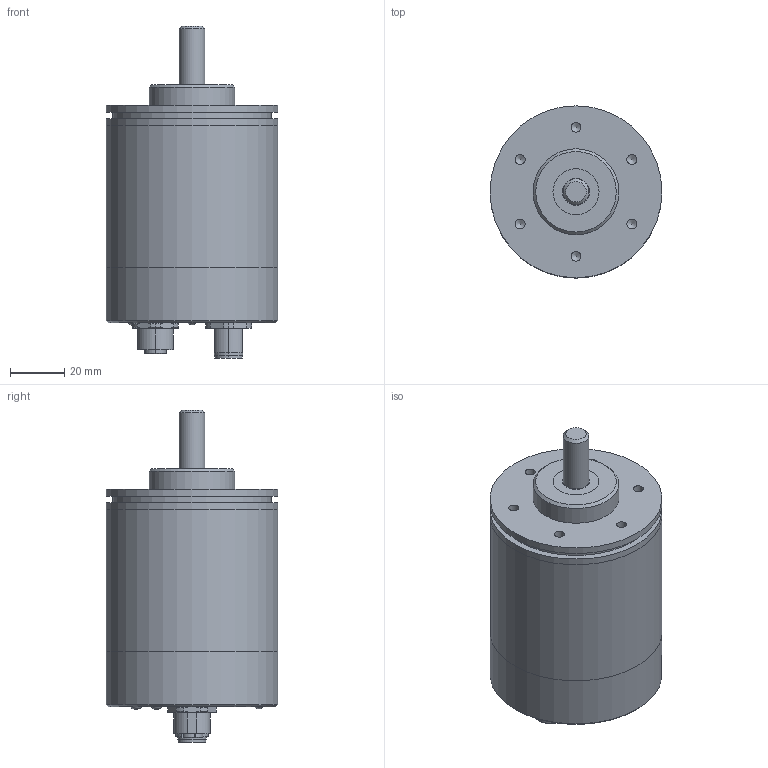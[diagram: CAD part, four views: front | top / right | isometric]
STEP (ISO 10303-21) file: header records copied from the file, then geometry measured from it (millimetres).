
FILE_DESCRIPTION(/* description */ ('Alibre Inc.'),/* implementation_level */ '2;1');
FILE_NAME(/* name */ 'export0',/* time_stamp */ '2010-05-25T09:16:11-04:00',/* author */ (''),/* organization */ (''),/* preprocessor_version */ 'ST-DEVELOPER v10',/* originating_system */ 'Alibre',/* authorisation */ '');
FILE_SCHEMA (('CONFIG_CONTROL_DESIGN'));
Length unit declared in the file: centimetre
Products named in the file (12): ID_1; ID_2; ID_3; ID_4; ID_5; ID_6; ID_7; ID_8; ID_9; ID_10
Bounding box: 63.5 x 63.5 x 122.63 mm (x, y, z)
Volume: 261163.2 mm3; surface area: 47497 mm2
Topology: 11 solids, 11 shells, 287 faces, 622 edges, 399 vertices
Faces by surface type: plane 120, cylinder 114, cone 42, bspline 4, sphere 4, torus 3
Full cylindrical faces by diameter (mm): 2.92 x2, 3 x20, 3.65 x6, 3.96 x4, 9.525 x1, 10 x3, 11.5 x2, 17 x2, 24 x1, 26 x2, 31.75 x1, 58.674 x1, 58.72 x2, 63.5 x4
Entity records: 8470 total; most frequent: CARTESIAN_POINT 1386, DIRECTION 1244, ORIENTED_EDGE 1056, AXIS2_PLACEMENT_3D 577, EDGE_CURVE 528, FACE_BOUND 404, EDGE_LOOP 398, VERTEX_POINT 382
